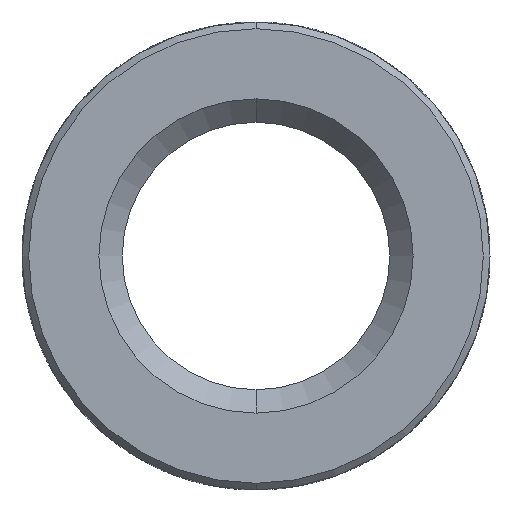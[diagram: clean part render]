
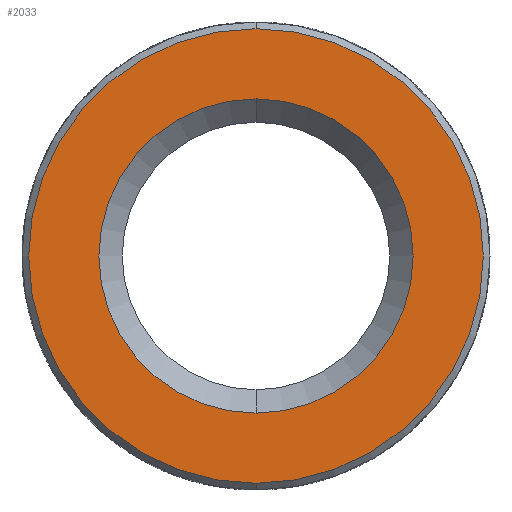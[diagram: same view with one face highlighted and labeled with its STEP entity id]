
A CAD part, front view. The second image highlights one B-rep face of the part: STEP entity #2033.
In plain terms, the highlighted planar face has unit normal (0, -1, 0).
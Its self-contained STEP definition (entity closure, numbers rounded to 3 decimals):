
#243 = DIRECTION ( 'NONE',  ( 0., -1., 0. ) ) ;
#387 = CARTESIAN_POINT ( 'NONE',  ( 0., -4.9, 3.4 ) ) ;
#469 = AXIS2_PLACEMENT_3D ( 'NONE', #1726, #2326, #3194 ) ;
#519 = AXIS2_PLACEMENT_3D ( 'NONE', #3747, #1413, #3510 ) ;
#531 = EDGE_CURVE ( 'NONE', #917, #1483, #2848, .T. ) ;
#647 = VERTEX_POINT ( 'NONE', #1003 ) ;
#683 = ORIENTED_EDGE ( 'NONE', *, *, #1312, .T. ) ;
#715 = CARTESIAN_POINT ( 'NONE',  ( 0., -4.9, -3.4 ) ) ;
#854 = CIRCLE ( 'NONE', #2491, 3.4 ) ;
#881 = CARTESIAN_POINT ( 'NONE',  ( 0., -4.9, 0. ) ) ;
#898 = CARTESIAN_POINT ( 'NONE',  ( 0., -4.9, 2.35 ) ) ;
#901 = ORIENTED_EDGE ( 'NONE', *, *, #3197, .T. ) ;
#917 = VERTEX_POINT ( 'NONE', #715 ) ;
#1003 = CARTESIAN_POINT ( 'NONE',  ( 0., -4.9, -2.35 ) ) ;
#1250 = FACE_BOUND ( 'NONE', #2995, .T. ) ;
#1312 = EDGE_CURVE ( 'NONE', #1483, #917, #854, .T. ) ;
#1386 = EDGE_CURVE ( 'NONE', #647, #1526, #2749, .T. ) ;
#1413 = DIRECTION ( 'NONE',  ( 0., 1., 0. ) ) ;
#1478 = DIRECTION ( 'NONE',  ( 0., 0., -1. ) ) ;
#1483 = VERTEX_POINT ( 'NONE', #387 ) ;
#1526 = VERTEX_POINT ( 'NONE', #898 ) ;
#1568 = CIRCLE ( 'NONE', #469, 2.35 ) ;
#1576 = FACE_OUTER_BOUND ( 'NONE', #2465, .T. ) ;
#1688 = ORIENTED_EDGE ( 'NONE', *, *, #531, .T. ) ;
#1726 = CARTESIAN_POINT ( 'NONE',  ( 0., -4.9, 0. ) ) ;
#1857 = DIRECTION ( 'NONE',  ( 0., 0., -1. ) ) ;
#2033 = ADVANCED_FACE ( 'NONE', ( #1576, #1250 ), #3240, .T. ) ;
#2075 = DIRECTION ( 'NONE',  ( 0., -1., 0. ) ) ;
#2165 = AXIS2_PLACEMENT_3D ( 'NONE', #3527, #243, #1857 ) ;
#2326 = DIRECTION ( 'NONE',  ( 0., 1., 0. ) ) ;
#2465 = EDGE_LOOP ( 'NONE', ( #683, #1688 ) ) ;
#2491 = AXIS2_PLACEMENT_3D ( 'NONE', #2786, #3692, #3385 ) ;
#2749 = CIRCLE ( 'NONE', #519, 2.35 ) ;
#2786 = CARTESIAN_POINT ( 'NONE',  ( 0., -4.9, 0. ) ) ;
#2848 = CIRCLE ( 'NONE', #3583, 3.4 ) ;
#2877 = ORIENTED_EDGE ( 'NONE', *, *, #1386, .T. ) ;
#2995 = EDGE_LOOP ( 'NONE', ( #2877, #901 ) ) ;
#3194 = DIRECTION ( 'NONE',  ( 0., 0., -1. ) ) ;
#3197 = EDGE_CURVE ( 'NONE', #1526, #647, #1568, .T. ) ;
#3240 = PLANE ( 'NONE',  #2165 ) ;
#3385 = DIRECTION ( 'NONE',  ( 0., 0., -1. ) ) ;
#3510 = DIRECTION ( 'NONE',  ( 0., 0., -1. ) ) ;
#3527 = CARTESIAN_POINT ( 'NONE',  ( 0., -4.9, 3.5 ) ) ;
#3583 = AXIS2_PLACEMENT_3D ( 'NONE', #881, #2075, #1478 ) ;
#3692 = DIRECTION ( 'NONE',  ( 0., -1., 0. ) ) ;
#3747 = CARTESIAN_POINT ( 'NONE',  ( 0., -4.9, 0. ) ) ;
